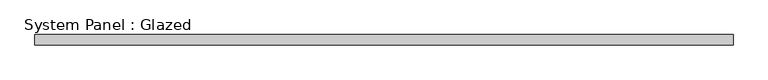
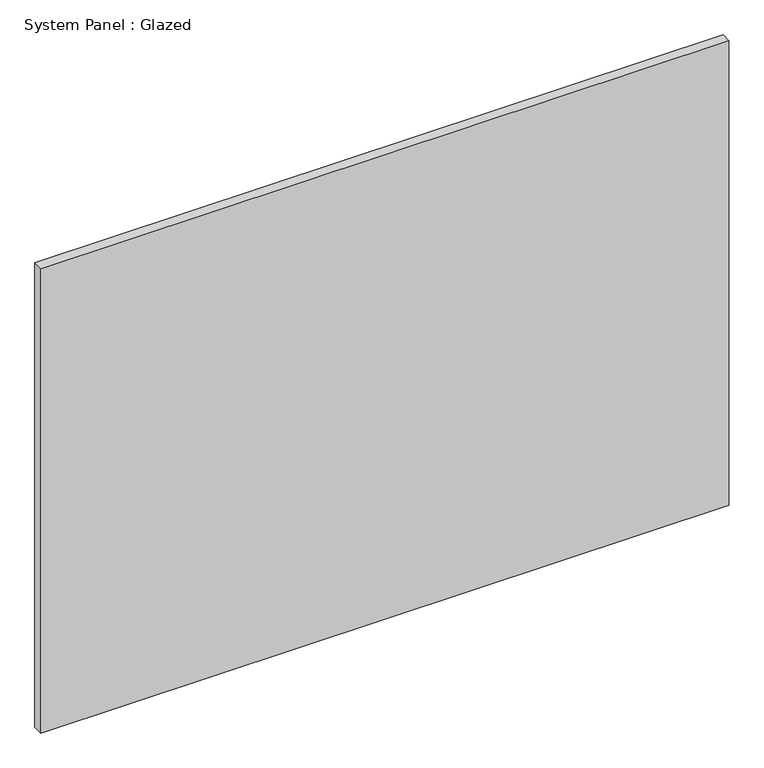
"""IFC4 building model written with IfcOpenShell, lengths in millimetres: plate geometry, System Panel : Glazed."""

from ifc_helpers import new_model, si_unit, origin, origin_with_axes, place, context, project, spatial, polyline, outline, extrude, source, transform, mapped, element, save


def system_panel_glazed_699b5b67(model_context):
    return source(origin(), model_context, "Body", "SweptSolid", [
        extrude(outline(polyline([(686.5, -40.0), (-686.5, -40.0), (-686.5, -20.0), (686.5, -20.0), (686.5, -40.0)])), origin_with_axes(), (0.0, 0.0, 1.0), 980.0),
    ])


if __name__ == "__main__":
    model = new_model("IFC4")
    model_context = context("Model", 3, world=origin())
    ifc_project = project(units=[si_unit("LENGTHUNIT", "METRE", prefix="MILLI")], contexts=[model_context])
    site = spatial("IfcSite", under=ifc_project)
    building = spatial("IfcBuilding", under=site)
    placement = place(None, origin())
    system_panel_glazed_shape = system_panel_glazed_699b5b67(model_context)
    element("IfcPlate", 1, ObjectType="System Panel : Glazed", at=placement, inside=building, context=model_context, shape_type="MappedRepresentation", body=[
        mapped(system_panel_glazed_shape, transform((0.0, 0.0, 0.0), x_axis=(1.0, 0.0, 0.0), y_axis=(0.0, 1.0, 0.0), z_axis=(0.0, 0.0, 1.0))),
    ])
    save(model, "model.ifc")
